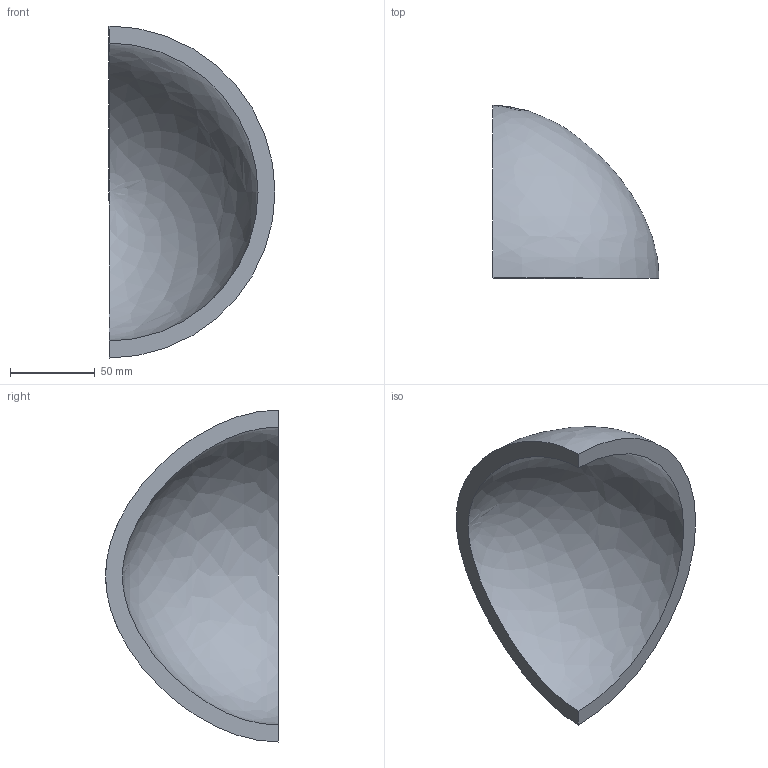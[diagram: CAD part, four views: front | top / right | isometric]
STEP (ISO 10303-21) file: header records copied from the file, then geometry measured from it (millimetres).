
FILE_DESCRIPTION(('CATIA V5 STEP Exchange'),'2;1');
FILE_NAME('C:\_Andres\UNIVERSIDAD\IQS\ASIGNATURAS\DAO\EXF\EXF-16172c\2inicio\Barrenechea_Bonifacio_Ej10_v2.stp','2017-03-05T22:31:08+00:00',('none'),('none'),'CATIA Version 5-6 Release 2014 SP1 HF18','CATIA V5 STEP AP203','none');
FILE_SCHEMA(('CONFIG_CONTROL_DESIGN'));
Length unit declared in the file: millimetre
Products named in the file (1): Barrenechea_Bonifacio_Ej10_v2
Bounding box: 98 x 102 x 196 mm (x, y, z)
Volume: 266275.3 mm3; surface area: 59201 mm2
Topology: 1 solids, 1 shells, 4 faces, 10 edges, 6 vertices
Faces by surface type: revolution 2, plane 2
Entity records: 233 total; most frequent: CARTESIAN_POINT 111, ORIENTED_EDGE 16, DIRECTION 10, EDGE_CURVE 8, B_SPLINE_CURVE_WITH_KNOTS 6, VERTEX_POINT 6, AXIS2_PLACEMENT_3D 5, ADVANCED_FACE 4
